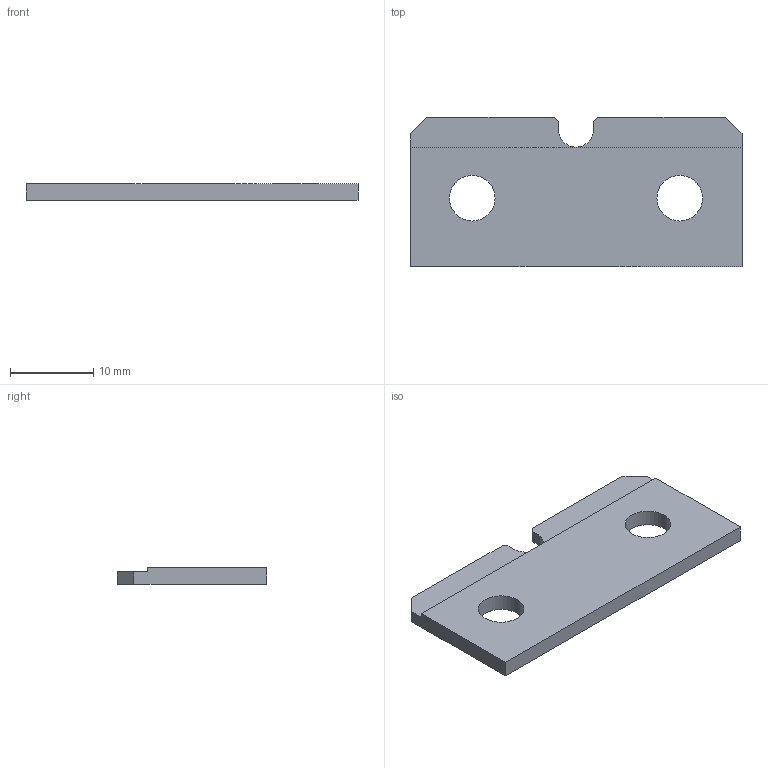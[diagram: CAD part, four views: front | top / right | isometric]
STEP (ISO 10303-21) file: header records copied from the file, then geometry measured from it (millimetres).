
FILE_DESCRIPTION(('CATIA V5 STEP Exchange'),'2;1');
FILE_NAME('C:\Users\hh\Desktop\2.0直通-三通插管治具图纸\TAT0010041-003.stp','2024-07-22T05:15:46+00:00',('none'),('none'),'CATIA Version 5 Release 21 GA (IN-10)','CATIA V5 STEP AP214','none');
FILE_SCHEMA(('AUTOMOTIVE_DESIGN { 1 0 10303 214 1 1 1 1 }'));
Length unit declared in the file: millimetre
Products named in the file (1): Part16
Bounding box: 40 x 18 x 2 mm (x, y, z)
Volume: 1246.8 mm3; surface area: 1611.2 mm2
Topology: 1 solids, 1 shells, 21 faces, 56 edges, 37 vertices
Faces by surface type: plane 16, cylinder 5
Entity records: 652 total; most frequent: ORIENTED_EDGE 112, CARTESIAN_POINT 111, DIRECTION 90, EDGE_CURVE 56, VECTOR 45, LINE 45, VERTEX_POINT 37, AXIS2_PLACEMENT_3D 29
